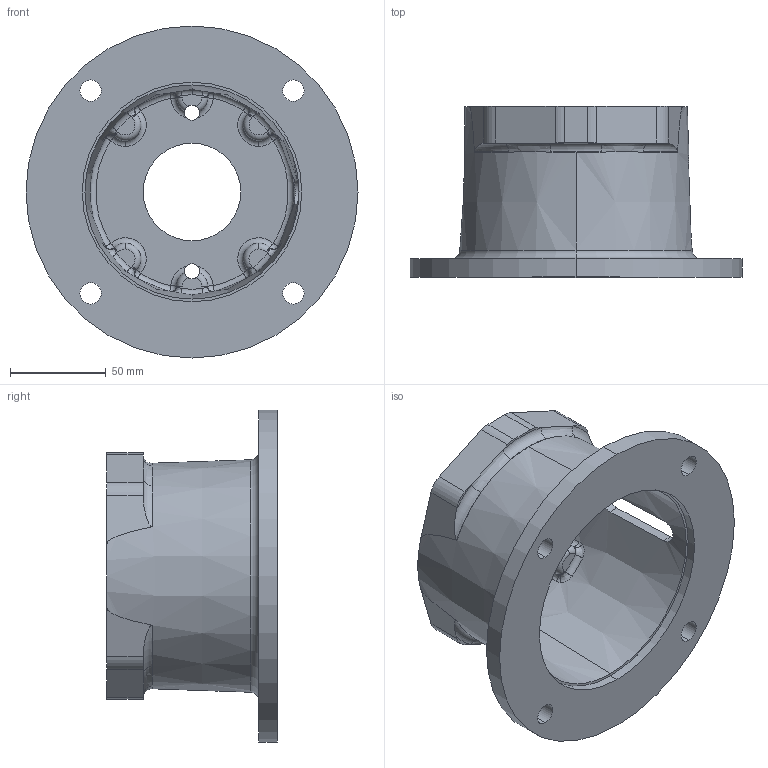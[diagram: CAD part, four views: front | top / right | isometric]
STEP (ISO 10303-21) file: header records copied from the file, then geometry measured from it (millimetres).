
FILE_DESCRIPTION (( 'STEP AP203' ), '1' );
FILE_NAME ('M056352AA.STEP', '2008-05-16T19:21:17', ( 'Chris McCoy' ), ( 'Magnaloy Coupling Co' ), 'SwSTEP 2.0', 'SolidWorks 2008', '' );
FILE_SCHEMA (( 'CONFIG_CONTROL_DESIGN' ));
Length unit declared in the file: inch
Products named in the file (1): M056352AA
Bounding box: 172.97 x 88.9 x 172.97 mm (x, y, z)
Volume: 348510.8 mm3; surface area: 107248.8 mm2
Topology: 1 solids, 1 shells, 204 faces, 520 edges, 307 vertices
Faces by surface type: torus 59, cylinder 40, bspline 40, plane 29, sphere 24, cone 12
Entity records: 7977 total; most frequent: CARTESIAN_POINT 3144, DIRECTION 1040, ORIENTED_EDGE 1016, EDGE_CURVE 508, AXIS2_PLACEMENT_3D 479, CIRCLE 314, VERTEX_POINT 307, EDGE_LOOP 221
